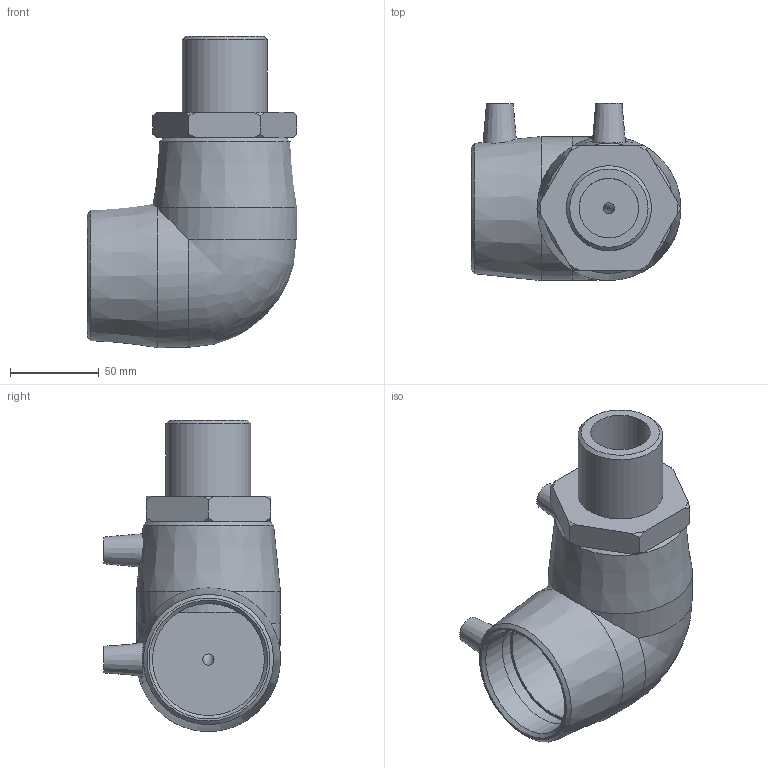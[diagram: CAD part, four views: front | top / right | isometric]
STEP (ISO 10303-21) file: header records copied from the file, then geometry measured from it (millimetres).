
FILE_DESCRIPTION(/* description */ ('PE Male Transition Elbow 90° 63x 1 1_2'),/* implementation_level */ '2;1');
FILE_NAME(/* name */ 'C:\Dropbox\KIMPROJECTS-Inventor\99-16-3568-Processing\ElectroFusion Fittings\21.04\497504\497504063015.ipt.stp',/* time_stamp */ '2019-04-21T15:13:04+03:00',/* author */ ('KIM'),/* organization */ (''),/* preprocessor_version */ 'ST-DEVELOPER v15.6',/* originating_system */ 'Autodesk Inventor 2015',/* authorisation */ '');
FILE_SCHEMA (('AUTOMOTIVE_DESIGN { 1 0 10303 214 3 1 1 }'));
Length unit declared in the file: millimetre
Products named in the file (1): 497504063015
Bounding box: 118 x 99.5 x 175 mm (x, y, z)
Volume: 614221.8 mm3; surface area: 105184.3 mm2
Topology: 2 solids, 2 shells, 60 faces, 134 edges, 86 vertices
Faces by surface type: plane 22, cone 22, cylinder 14, bspline 1, torus 1
Full cylindrical faces by diameter (mm): 4 x2, 6.3 x1, 10 x2, 33.462 x1, 47.803 x1, 48 x1, 63 x4
Entity records: 1541 total; most frequent: CARTESIAN_POINT 370, DIRECTION 246, ORIENTED_EDGE 196, AXIS2_PLACEMENT_3D 114, EDGE_LOOP 99, EDGE_CURVE 98, VERTEX_POINT 77, FACE_OUTER_BOUND 60
